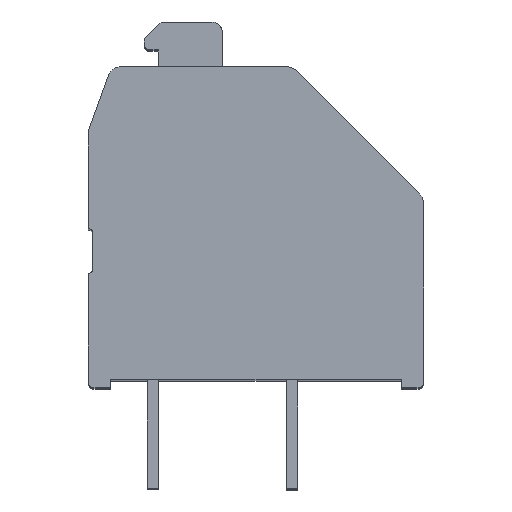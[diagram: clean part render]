
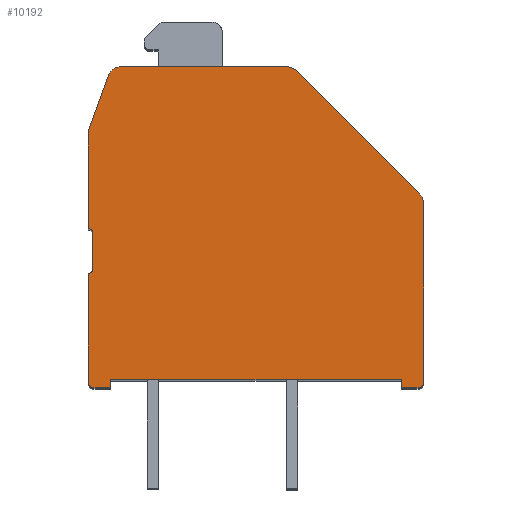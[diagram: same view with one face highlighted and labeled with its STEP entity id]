
A CAD part, top view. The second image highlights one B-rep face of the part: STEP entity #10192.
In plain terms, the highlighted planar face has unit normal (0, 0, 1).
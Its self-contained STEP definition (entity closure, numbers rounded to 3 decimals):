
#56=CIRCLE('',#10529,0.5);
#131=CIRCLE('',#10791,0.15);
#133=CIRCLE('',#10795,0.15);
#135=CIRCLE('',#10800,0.5);
#137=CIRCLE('',#10803,0.5);
#188=CIRCLE('',#10977,0.2);
#189=CIRCLE('',#10983,0.2);
#419=PLANE('',#10984);
#682=LINE('',#14260,#1901);
#1039=LINE('',#15179,#2258);
#1221=LINE('',#15626,#2440);
#1226=LINE('',#15637,#2445);
#1231=LINE('',#15651,#2450);
#1238=LINE('',#15668,#2457);
#1309=LINE('',#15788,#2528);
#1314=LINE('',#15804,#2533);
#1465=LINE('',#16231,#2684);
#1466=LINE('',#16233,#2685);
#1468=LINE('',#16237,#2687);
#1470=LINE('',#16241,#2689);
#1901=VECTOR('',#11353,1000.);
#2258=VECTOR('',#12148,1000.);
#2440=VECTOR('',#12520,1000.);
#2445=VECTOR('',#12527,1000.);
#2450=VECTOR('',#12540,1000.);
#2457=VECTOR('',#12555,1000.);
#2528=VECTOR('',#12628,1000.);
#2533=VECTOR('',#12647,1000.);
#2684=VECTOR('',#13146,1000.);
#2685=VECTOR('',#13149,1000.);
#2687=VECTOR('',#13153,1000.);
#2689=VECTOR('',#13157,1000.);
#4813=ORIENTED_EDGE('',*,*,#6828,.T.);
#4814=ORIENTED_EDGE('',*,*,#6832,.F.);
#4815=ORIENTED_EDGE('',*,*,#6835,.T.);
#4816=ORIENTED_EDGE('',*,*,#6838,.F.);
#4817=ORIENTED_EDGE('',*,*,#6844,.T.);
#4818=ORIENTED_EDGE('',*,*,#7124,.T.);
#4819=ORIENTED_EDGE('',*,*,#7126,.T.);
#4820=ORIENTED_EDGE('',*,*,#7127,.T.);
#4821=ORIENTED_EDGE('',*,*,#6823,.T.);
#4822=ORIENTED_EDGE('',*,*,#7129,.T.);
#4823=ORIENTED_EDGE('',*,*,#7131,.T.);
#4824=ORIENTED_EDGE('',*,*,#7132,.T.);
#4825=ORIENTED_EDGE('',*,*,#6915,.T.);
#4826=ORIENTED_EDGE('',*,*,#6919,.T.);
#4827=ORIENTED_EDGE('',*,*,#6128,.T.);
#4828=ORIENTED_EDGE('',*,*,#6190,.T.);
#4829=ORIENTED_EDGE('',*,*,#6595,.T.);
#4830=ORIENTED_EDGE('',*,*,#6922,.T.);
#4831=ORIENTED_EDGE('',*,*,#6924,.T.);
#6128=EDGE_CURVE('',#7626,#7625,#682,.T.);
#6190=EDGE_CURVE('',#7625,#7675,#56,.T.);
#6595=EDGE_CURVE('',#7675,#7968,#1039,.T.);
#6823=EDGE_CURVE('',#8139,#8138,#1221,.T.);
#6828=EDGE_CURVE('',#8144,#8143,#1226,.T.);
#6832=EDGE_CURVE('',#8146,#8143,#131,.T.);
#6835=EDGE_CURVE('',#8146,#8148,#1231,.T.);
#6838=EDGE_CURVE('',#8150,#8148,#133,.T.);
#6844=EDGE_CURVE('',#8150,#8154,#1238,.T.);
#6915=EDGE_CURVE('',#8203,#8202,#1309,.T.);
#6919=EDGE_CURVE('',#8202,#7626,#135,.T.);
#6922=EDGE_CURVE('',#7968,#8206,#137,.T.);
#6924=EDGE_CURVE('',#8206,#8144,#1314,.T.);
#7124=EDGE_CURVE('',#8154,#8307,#188,.T.);
#7126=EDGE_CURVE('',#8307,#8308,#1465,.T.);
#7127=EDGE_CURVE('',#8308,#8139,#1466,.T.);
#7129=EDGE_CURVE('',#8138,#8309,#1468,.T.);
#7131=EDGE_CURVE('',#8309,#8310,#1470,.T.);
#7132=EDGE_CURVE('',#8310,#8203,#189,.T.);
#7625=VERTEX_POINT('',#14259);
#7626=VERTEX_POINT('',#14261);
#7675=VERTEX_POINT('',#14382);
#7968=VERTEX_POINT('',#15178);
#8138=VERTEX_POINT('',#15625);
#8139=VERTEX_POINT('',#15627);
#8143=VERTEX_POINT('',#15636);
#8144=VERTEX_POINT('',#15638);
#8146=VERTEX_POINT('',#15644);
#8148=VERTEX_POINT('',#15650);
#8150=VERTEX_POINT('',#15656);
#8154=VERTEX_POINT('',#15667);
#8202=VERTEX_POINT('',#15787);
#8203=VERTEX_POINT('',#15789);
#8206=VERTEX_POINT('',#15800);
#8307=VERTEX_POINT('',#16226);
#8308=VERTEX_POINT('',#16230);
#8309=VERTEX_POINT('',#16236);
#8310=VERTEX_POINT('',#16240);
#8967=EDGE_LOOP('',(#4813,#4814,#4815,#4816,#4817,#4818,#4819,#4820,#4821,
#4822,#4823,#4824,#4825,#4826,#4827,#4828,#4829,#4830,#4831));
#9540=FACE_BOUND('',#8967,.T.);
#10192=ADVANCED_FACE('',(#9540),#419,.T.);
#10529=AXIS2_PLACEMENT_3D('',#14383,#11481,#11482);
#10791=AXIS2_PLACEMENT_3D('',#15645,#12534,#12535);
#10795=AXIS2_PLACEMENT_3D('',#15657,#12546,#12547);
#10800=AXIS2_PLACEMENT_3D('',#15795,#12635,#12636);
#10803=AXIS2_PLACEMENT_3D('',#15801,#12642,#12643);
#10977=AXIS2_PLACEMENT_3D('',#16227,#13141,#13142);
#10983=AXIS2_PLACEMENT_3D('',#16243,#13160,#13161);
#10984=AXIS2_PLACEMENT_3D('',#16244,#13162,#13163);
#11353=DIRECTION('',(-0.707,0.707,0.));
#11481=DIRECTION('',(0.,0.,1.));
#11482=DIRECTION('',(1.,0.,0.));
#12148=DIRECTION('',(-1.,0.,0.));
#12520=DIRECTION('',(1.,0.,0.));
#12527=DIRECTION('',(0.,-1.,0.));
#12534=DIRECTION('',(0.,0.,1.));
#12535=DIRECTION('',(1.,0.,0.));
#12540=DIRECTION('',(0.,-1.,0.));
#12546=DIRECTION('',(0.,0.,1.));
#12547=DIRECTION('',(1.,0.,0.));
#12555=DIRECTION('',(0.,-1.,0.));
#12628=DIRECTION('',(0.,1.,0.));
#12635=DIRECTION('',(0.,0.,1.));
#12636=DIRECTION('',(1.,0.,0.));
#12642=DIRECTION('',(0.,0.,1.));
#12643=DIRECTION('',(1.,0.,0.));
#12647=DIRECTION('',(-0.342,-0.94,0.));
#13141=DIRECTION('',(0.,0.,1.));
#13142=DIRECTION('',(1.,0.,0.));
#13146=DIRECTION('',(1.,0.,0.));
#13149=DIRECTION('',(0.,1.,0.));
#13153=DIRECTION('',(0.,-1.,0.));
#13157=DIRECTION('',(1.,0.,0.));
#13160=DIRECTION('',(0.,0.,1.));
#13161=DIRECTION('',(1.,0.,0.));
#13162=DIRECTION('',(0.,0.,1.));
#13163=DIRECTION('',(1.,0.,0.));
#14259=CARTESIAN_POINT('',(0.146,11.354,31.98));
#14260=CARTESIAN_POINT('',(4.554,6.946,31.98));
#14261=CARTESIAN_POINT('',(4.554,6.946,31.98));
#14382=CARTESIAN_POINT('',(-0.207,11.5,31.98));
#14383=CARTESIAN_POINT('',(-0.207,11.,31.98));
#15178=CARTESIAN_POINT('',(-6.113,11.5,31.98));
#15179=CARTESIAN_POINT('',(-0.207,11.5,31.98));
#15625=CARTESIAN_POINT('',(3.9,0.3,31.98));
#15626=CARTESIAN_POINT('',(-6.5,0.3,31.98));
#15627=CARTESIAN_POINT('',(-6.5,0.3,31.98));
#15636=CARTESIAN_POINT('',(-7.3,5.7,31.98));
#15637=CARTESIAN_POINT('',(-7.3,9.2,31.98));
#15638=CARTESIAN_POINT('',(-7.3,9.2,31.98));
#15644=CARTESIAN_POINT('',(-7.15,5.55,31.98));
#15645=CARTESIAN_POINT('',(-7.3,5.55,31.98));
#15650=CARTESIAN_POINT('',(-7.15,4.25,31.98));
#15651=CARTESIAN_POINT('',(-7.15,5.55,31.98));
#15656=CARTESIAN_POINT('',(-7.3,4.1,31.98));
#15657=CARTESIAN_POINT('',(-7.3,4.25,31.98));
#15667=CARTESIAN_POINT('',(-7.3,0.2,31.98));
#15668=CARTESIAN_POINT('',(-7.3,4.1,31.98));
#15787=CARTESIAN_POINT('',(4.7,6.593,31.98));
#15788=CARTESIAN_POINT('',(4.7,0.2,31.98));
#15789=CARTESIAN_POINT('',(4.7,0.2,31.98));
#15795=CARTESIAN_POINT('',(4.2,6.593,31.98));
#15800=CARTESIAN_POINT('',(-6.583,11.171,31.98));
#15801=CARTESIAN_POINT('',(-6.113,11.,31.98));
#15804=CARTESIAN_POINT('',(-6.583,11.171,31.98));
#16226=CARTESIAN_POINT('',(-7.1,0.,31.98));
#16227=CARTESIAN_POINT('',(-7.1,0.2,31.98));
#16230=CARTESIAN_POINT('',(-6.5,0.,31.98));
#16231=CARTESIAN_POINT('',(-7.1,0.,31.98));
#16233=CARTESIAN_POINT('',(-6.5,0.,31.98));
#16236=CARTESIAN_POINT('',(3.9,0.,31.98));
#16237=CARTESIAN_POINT('',(3.9,0.3,31.98));
#16240=CARTESIAN_POINT('',(4.5,0.,31.98));
#16241=CARTESIAN_POINT('',(3.9,0.,31.98));
#16243=CARTESIAN_POINT('',(4.5,0.2,31.98));
#16244=CARTESIAN_POINT('',(-7.3,5.55,31.98));
